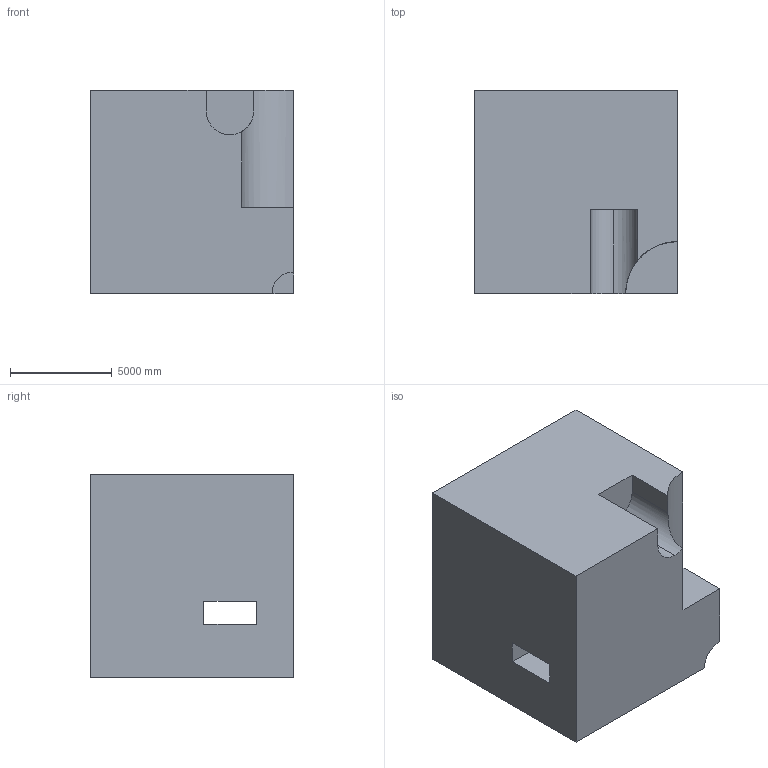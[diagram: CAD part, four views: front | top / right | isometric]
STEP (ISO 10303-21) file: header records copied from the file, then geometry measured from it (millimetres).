
FILE_DESCRIPTION (( 'STEP AP203' ), '1' );
FILE_NAME ('98.STEP', '2022-08-31T11:33:14', ( 'user' ), ( '' ), 'SwSTEP 2.0', 'SolidWorks 2021', '' );
FILE_SCHEMA (( 'CONFIG_CONTROL_DESIGN' ));
Length unit declared in the file: centimetre
Products named in the file (1): 98
Bounding box: 10000 x 10000 x 10000 mm (x, y, z)
Volume: 909663479631 mm3; surface area: 679462789 mm2
Topology: 1 solids, 1 shells, 26 faces, 72 edges, 48 vertices
Faces by surface type: plane 22, cylinder 4
Entity records: 984 total; most frequent: CARTESIAN_POINT 234, ORIENTED_EDGE 144, DIRECTION 131, EDGE_CURVE 72, VECTOR 61, LINE 61, VERTEX_POINT 48, AXIS2_PLACEMENT_3D 35
